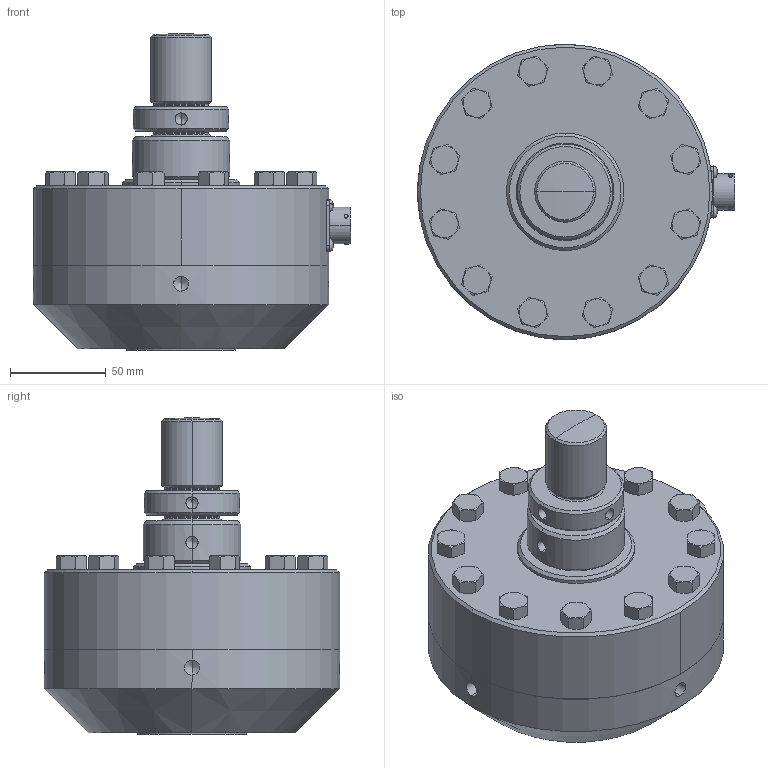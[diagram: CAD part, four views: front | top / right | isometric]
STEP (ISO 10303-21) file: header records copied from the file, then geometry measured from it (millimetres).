
FILE_DESCRIPTION (( 'STEP AP203' ), '1' );
FILE_NAME ('Interface 1620-25K.STEP', '2012-05-08T17:23:54', ( ' ' ), ( '' ), 'SwSTEP 2.0', 'SolidWorks 2002349', '' );
FILE_SCHEMA (( 'CONFIG_CONTROL_DESIGN' ));
Length unit declared in the file: inch
Products named in the file (1): Interface 1620-25K
Bounding box: 165.29 x 153.95 x 165.1 mm (x, y, z)
Volume: 1564317.7 mm3; surface area: 94407.8 mm2
Topology: 1 solids, 1 shells, 469 faces, 1106 edges, 659 vertices
Faces by surface type: cone 211, plane 162, cylinder 78, bspline 16, sphere 2
Entity records: 15299 total; most frequent: CARTESIAN_POINT 5224, ORIENTED_EDGE 2172, DIRECTION 1934, EDGE_CURVE 1086, AXIS2_PLACEMENT_3D 797, VERTEX_POINT 659, EDGE_LOOP 509, FACE_OUTER_BOUND 469
